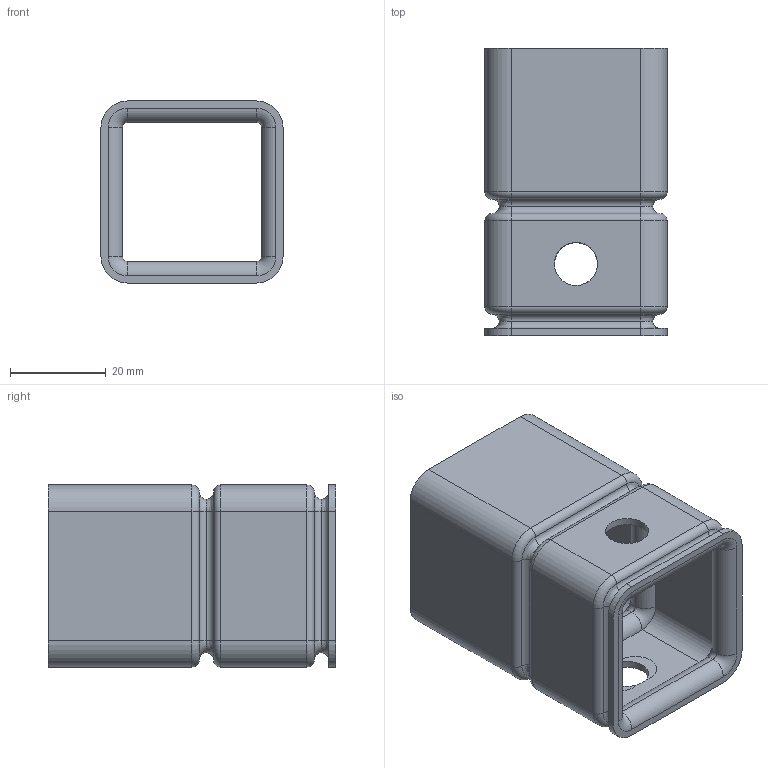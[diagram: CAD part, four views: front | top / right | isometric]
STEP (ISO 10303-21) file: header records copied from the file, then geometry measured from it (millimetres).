
FILE_DESCRIPTION((''),'2;1');
FILE_NAME('E:\Uebbing\KATALOG\3D\PFR\PFR 121\PFR121 Normalanschluss.stp','2010-08-16T12:32:11',('UebbingXP'),(''),'Autodesk Inventor 10','Autodesk Inventor 10','');
FILE_SCHEMA(('AUTOMOTIVE_DESIGN { 1 0 10303 214 1 1 1 1 }'));
Length unit declared in the file: millimetre
Products named in the file (1): PFR121 Normalanschluss
Bounding box: 38 x 60 x 38 mm (x, y, z)
Volume: 13433.4 mm3; surface area: 18278.7 mm2
Topology: 1 solids, 1 shells, 188 faces, 416 edges, 232 vertices
Faces by surface type: cylinder 86, plane 50, torus 28, bspline 24
Full cylindrical faces by diameter (mm): 9 x2
Entity records: 6157 total; most frequent: CARTESIAN_POINT 1959, DIRECTION 968, ORIENTED_EDGE 824, EDGE_CURVE 412, AXIS2_PLACEMENT_3D 391, VERTEX_POINT 230, CIRCLE 226, EDGE_LOOP 198
